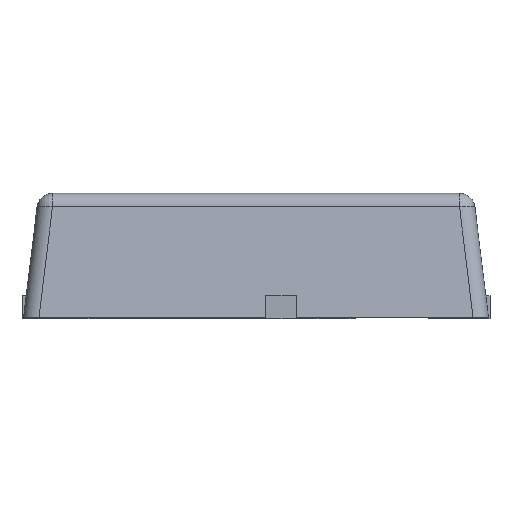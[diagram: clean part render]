
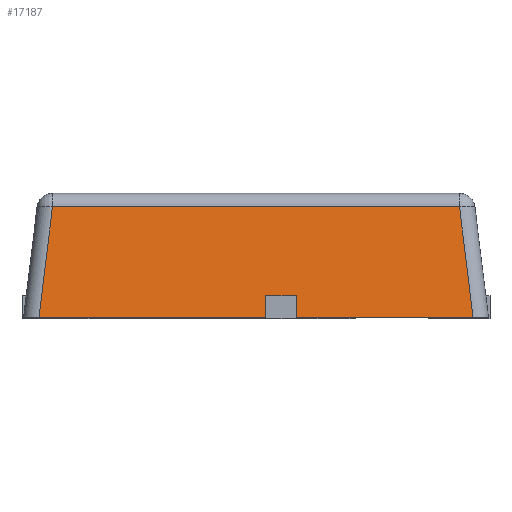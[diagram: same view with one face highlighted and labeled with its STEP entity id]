
A CAD part, left-side view. The second image highlights one B-rep face of the part: STEP entity #17187.
In plain terms, the highlighted planar face has unit normal (-0.993, 0, 0.122).
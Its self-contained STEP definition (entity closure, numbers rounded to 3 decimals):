
#277 = EDGE_CURVE ( 'NONE', #10308, #3605, #20834, .T. ) ;
#608 = VECTOR ( 'NONE', #3918, 1000. ) ;
#1582 = VERTEX_POINT ( 'NONE', #16754 ) ;
#2428 = AXIS2_PLACEMENT_3D ( 'NONE', #15003, #14640, #22163 ) ;
#2597 = LINE ( 'NONE', #10149, #3284 ) ;
#2694 = VERTEX_POINT ( 'NONE', #18899 ) ;
#2916 = ORIENTED_EDGE ( 'NONE', *, *, #13694, .F. ) ;
#3284 = VECTOR ( 'NONE', #19284, 1000. ) ;
#3530 = VERTEX_POINT ( 'NONE', #9424 ) ;
#3605 = VERTEX_POINT ( 'NONE', #17051 ) ;
#3646 = DIRECTION ( 'NONE',  ( 0., -1., 0. ) ) ;
#3707 = DIRECTION ( 'NONE',  ( 0., 1., 0. ) ) ;
#3748 = CARTESIAN_POINT ( 'NONE',  ( -1.528, -0.261, 0.187 ) ) ;
#3804 = ORIENTED_EDGE ( 'NONE', *, *, #24457, .T. ) ;
#3918 = DIRECTION ( 'NONE',  ( 0.121, 0.121, 0.985 ) ) ;
#3990 = VECTOR ( 'NONE', #6208, 1000. ) ;
#5703 = VERTEX_POINT ( 'NONE', #9780 ) ;
#5818 = ORIENTED_EDGE ( 'NONE', *, *, #19890, .T. ) ;
#6208 = DIRECTION ( 'NONE',  ( 0., -1., 0. ) ) ;
#7230 = FACE_OUTER_BOUND ( 'NONE', #7704, .T. ) ;
#7398 = CARTESIAN_POINT ( 'NONE',  ( -1.528, -0.061, 0.187 ) ) ;
#7704 = EDGE_LOOP ( 'NONE', ( #3804, #12105, #7808, #2916, #24053, #24298, #5818, #10892 ) ) ;
#7808 = ORIENTED_EDGE ( 'NONE', *, *, #22162, .T. ) ;
#8446 = CARTESIAN_POINT ( 'NONE',  ( -1.463, 1.402, 0.722 ) ) ;
#9336 = LINE ( 'NONE', #20574, #16706 ) ;
#9424 = CARTESIAN_POINT ( 'NONE',  ( -1.55, 1.401, 0.01 ) ) ;
#9780 = CARTESIAN_POINT ( 'NONE',  ( -1.55, -0.061, 0.01 ) ) ;
#10049 = VECTOR ( 'NONE', #12948, 1000. ) ;
#10149 = CARTESIAN_POINT ( 'NONE',  ( -1.433, 1.283, 0.965 ) ) ;
#10308 = VERTEX_POINT ( 'NONE', #23713 ) ;
#10892 = ORIENTED_EDGE ( 'NONE', *, *, #277, .T. ) ;
#11292 = LINE ( 'NONE', #3748, #14502 ) ;
#11790 = EDGE_CURVE ( 'NONE', #2694, #19274, #11292, .T. ) ;
#12105 = ORIENTED_EDGE ( 'NONE', *, *, #13180, .T. ) ;
#12793 = LINE ( 'NONE', #15466, #3990 ) ;
#12948 = DIRECTION ( 'NONE',  ( -0.122, 0., -0.993 ) ) ;
#13075 = CARTESIAN_POINT ( 'NONE',  ( -1.433, -1.283, 0.965 ) ) ;
#13180 = EDGE_CURVE ( 'NONE', #20774, #3530, #2597, .T. ) ;
#13694 = EDGE_CURVE ( 'NONE', #1582, #5703, #14816, .T. ) ;
#13728 = CARTESIAN_POINT ( 'NONE',  ( -1.533, 0., 0.15 ) ) ;
#14237 = LINE ( 'NONE', #8446, #23900 ) ;
#14502 = VECTOR ( 'NONE', #21035, 1000. ) ;
#14640 = DIRECTION ( 'NONE',  ( 0.993, 0., -0.122 ) ) ;
#14816 = LINE ( 'NONE', #7398, #10049 ) ;
#15003 = CARTESIAN_POINT ( 'NONE',  ( -1.452, 0., 0.81 ) ) ;
#15466 = CARTESIAN_POINT ( 'NONE',  ( -1.55, -1.5, 0.01 ) ) ;
#16706 = VECTOR ( 'NONE', #3646, 1000. ) ;
#16754 = CARTESIAN_POINT ( 'NONE',  ( -1.533, -0.061, 0.15 ) ) ;
#17051 = CARTESIAN_POINT ( 'NONE',  ( -1.463, -1.313, 0.722 ) ) ;
#17178 = CARTESIAN_POINT ( 'NONE',  ( -1.533, -0.261, 0.15 ) ) ;
#17187 = ADVANCED_FACE ( 'NONE', ( #7230 ), #24388, .F. ) ;
#17373 = EDGE_CURVE ( 'NONE', #19274, #1582, #17424, .T. ) ;
#17424 = LINE ( 'NONE', #13728, #22565 ) ;
#18414 = CARTESIAN_POINT ( 'NONE',  ( -1.463, 1.313, 0.722 ) ) ;
#18899 = CARTESIAN_POINT ( 'NONE',  ( -1.55, -0.261, 0.01 ) ) ;
#19274 = VERTEX_POINT ( 'NONE', #17178 ) ;
#19284 = DIRECTION ( 'NONE',  ( -0.121, 0.121, -0.985 ) ) ;
#19785 = DIRECTION ( 'NONE',  ( 0., 1., 0. ) ) ;
#19890 = EDGE_CURVE ( 'NONE', #2694, #10308, #9336, .T. ) ;
#20574 = CARTESIAN_POINT ( 'NONE',  ( -1.55, -1.5, 0.01 ) ) ;
#20774 = VERTEX_POINT ( 'NONE', #18414 ) ;
#20834 = LINE ( 'NONE', #13075, #608 ) ;
#21035 = DIRECTION ( 'NONE',  ( 0.122, 0., 0.993 ) ) ;
#22162 = EDGE_CURVE ( 'NONE', #3530, #5703, #12793, .T. ) ;
#22163 = DIRECTION ( 'NONE',  ( 0., -1., 0. ) ) ;
#22565 = VECTOR ( 'NONE', #3707, 1000. ) ;
#23713 = CARTESIAN_POINT ( 'NONE',  ( -1.55, -1.401, 0.01 ) ) ;
#23900 = VECTOR ( 'NONE', #19785, 1000. ) ;
#24053 = ORIENTED_EDGE ( 'NONE', *, *, #17373, .F. ) ;
#24298 = ORIENTED_EDGE ( 'NONE', *, *, #11790, .F. ) ;
#24388 = PLANE ( 'NONE',  #2428 ) ;
#24457 = EDGE_CURVE ( 'NONE', #3605, #20774, #14237, .T. ) ;
